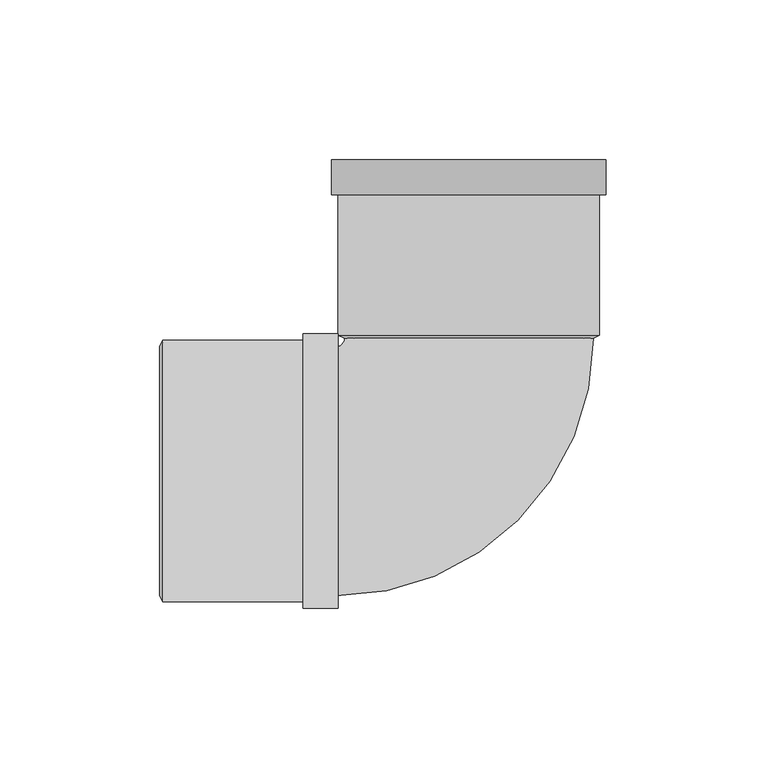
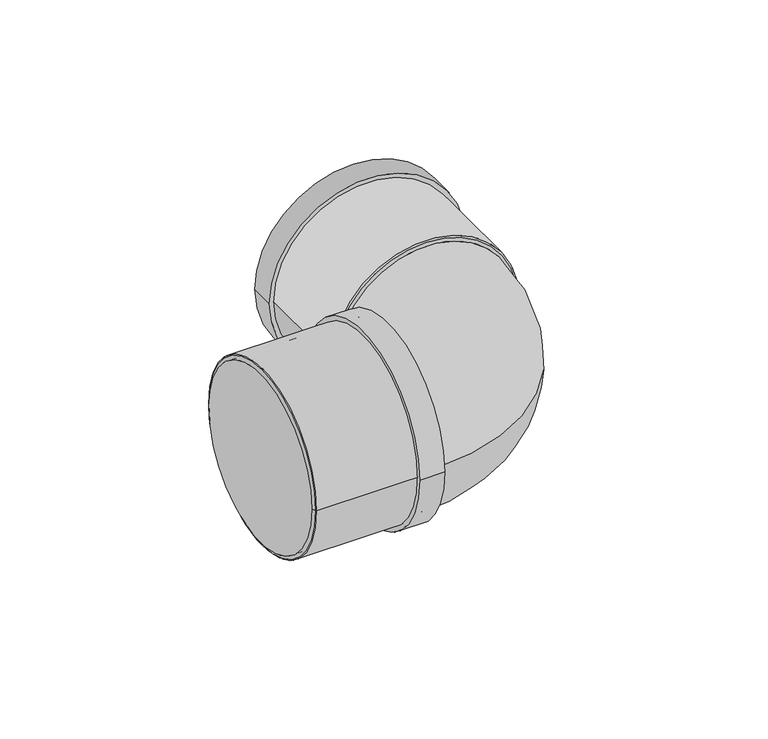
"""IFC4 building model written with IfcOpenShell, lengths in millimetres: pipe fitting geometry, Superdrain SK Bend_Composite 2x45 : Superdrain SK Bend_Composite 2x45."""

from ifc_helpers import new_model, si_unit, point, frame, origin, origin_2d, place, context, project, spatial, polyline, circle_curve, ellipse_curve, trimmed, segment, composite_curve, outline, extrude, source, transform, mapped, element, save
from ifc_brep_helpers import plane_surface, revolved_surface, advanced_brep


def pipe_fitting_76c013b8(model_context):
    return source(origin(), model_context, "Body", "SolidModel", [
        extrude(outline(composite_curve([segment(trimmed(circle_curve(origin_2d(), 40.95), [point((40.95, 0.0))], [point((-40.95, 0.0))], False, "CARTESIAN"), True, "CONTINUOUS"), segment(trimmed(circle_curve(origin_2d(), 40.95), [point((-40.95, 0.0))], [point((40.95, 0.0))], False, "CARTESIAN"), True, "CONTINUOUS")], self_intersect=False), holes=[composite_curve([segment(trimmed(circle_curve(origin_2d(), 39.0), [point((39.0, 0.0))], [point((-39.0, 0.0))], True, "CARTESIAN"), True, "CONTINUOUS"), segment(trimmed(circle_curve(origin_2d(), 39.0), [point((-39.0, 0.0))], [point((39.0, 0.0))], True, "CARTESIAN"), True, "CONTINUOUS")], self_intersect=False)]), frame((-96.0, 0.0, 0.0), z_axis=(1.0, 0.0, 0.0), x_axis=(0.0, 1.0, 0.0)), (0.0, 0.0, 1.0), 55.0),
        extrude(outline(composite_curve([segment(trimmed(circle_curve(origin_2d(), 42.9975), [point((42.9975, 0.0))], [point((-42.9975, 0.0))], False, "CARTESIAN"), True, "CONTINUOUS"), segment(trimmed(circle_curve(origin_2d(), 42.9975), [point((-42.9975, 0.0))], [point((42.9975, 0.0))], False, "CARTESIAN"), True, "CONTINUOUS")], self_intersect=False), holes=[composite_curve([segment(trimmed(circle_curve(origin_2d(), 39.0), [point((39.0, 0.0))], [point((-39.0, 0.0))], True, "CARTESIAN"), True, "CONTINUOUS"), segment(trimmed(circle_curve(origin_2d(), 39.0), [point((-39.0, 0.0))], [point((39.0, 0.0))], True, "CARTESIAN"), True, "CONTINUOUS")], self_intersect=False)]), frame((-52.0, 0.0, 0.0), z_axis=(1.0, 0.0, 0.0), x_axis=(0.0, 1.0, 0.0)), (0.0, 0.0, 1.0), 11.0),
        advanced_brep(
        [(-97.0, 39.0, 0.0), (-97.0, -39.0, 0.0), (-96.0, 40.95, 0.0), (-96.0, -40.95, 0.0)],
        [
            (0, 1, circle_curve(frame((-97.0, 0.0, 0.0), z_axis=(-1.0, 0.0, 0.0), x_axis=(0.0, 1.0, 0.0)), 39.0)),
            (1, 0, circle_curve(frame((-97.0, 0.0, 0.0), z_axis=(-1.0, 0.0, 0.0), x_axis=(0.0, -1.0, 0.0)), 39.0)),
            (2, 3, circle_curve(frame((-96.0, 0.0, 0.0), z_axis=(1.0, 0.0, 0.0), x_axis=(0.0, -1.0, 0.0)), 40.95)),
            (3, 2, circle_curve(frame((-96.0, 0.0, 0.0), z_axis=(1.0, 0.0, 0.0), x_axis=(0.0, 1.0, 0.0)), 40.95)),
            (3, 1),
            (0, 2),
        ],
        [
            plane_surface(frame((-97.0, 0.0, 0.0), z_axis=(-1.0, 0.0, 0.0), x_axis=(0.0, 0.0, -1.0))),
            plane_surface(frame((-96.0, 0.0, 0.0), z_axis=(1.0, 0.0, 0.0), x_axis=(0.0, 0.0, -1.0))),
            revolved_surface(polyline([(-97.0, 39.0, 0.0), (-96.0, 40.95, 0.0)]), (-117.0, 0.0, 0.0), (1.0, 0.0, 0.0)),
            revolved_surface(polyline([(-97.0, -39.0, 0.0), (-96.0, -40.95, 0.0)]), (-117.0, 0.0, 0.0), (1.0, 0.0, 0.0)),
        ],
        [
            (0, [[1, 2]]),
            (1, [[3, 4]]),
            (2, [[-4, 5, -1, 6]]),
            (3, [[-3, -6, -2, -5]]),
        ],
    ),
        advanced_brep(
        [(39.0, 41.6, 0.0), (-39.0, 41.6, 0.0), (-41.6, -39.0, 0.0), (-41.6, 39.0, 0.0)],
        [
            (0, 1, circle_curve(frame((0.0, 41.6, 0.0), z_axis=(0.0, 1.0, 0.0), x_axis=(-1.0, 0.0, 0.0)), 39.0)),
            (1, 0, circle_curve(frame((0.0, 41.6, 0.0), z_axis=(0.0, 1.0, 0.0), x_axis=(-1.0, 0.0, 0.0)), 39.0)),
            (2, 3, circle_curve(frame((-41.6, 0.0, 0.0), z_axis=(-1.0, 0.0, 0.0), x_axis=(0.0, 1.0, 0.0)), 39.0)),
            (3, 2, circle_curve(frame((-41.6, 0.0, 0.0), z_axis=(-1.0, 0.0, 0.0), x_axis=(0.0, 1.0, 0.0)), 39.0)),
            (3, 1, circle_curve(frame((-41.6, 41.6, 0.0), z_axis=(0.0, 0.0, 1.0), x_axis=(1.0, 0.0, 0.0)), 2.6)),
            (0, 2, circle_curve(frame((-41.6, 41.6, 0.0), z_axis=(0.0, 0.0, -1.0), x_axis=(1.0, 0.0, 0.0)), 80.6)),
        ],
        [
            plane_surface(frame((0.0, 41.6, 0.0), z_axis=(0.0, 1.0, 0.0), x_axis=(0.0, 0.0, -1.0))),
            plane_surface(frame((-41.6, 0.0, 0.0), z_axis=(-1.0, 0.0, 0.0), x_axis=(0.0, 0.0, -1.0))),
            revolved_surface(trimmed(ellipse_curve(frame((0.0, 41.6, 0.0), z_axis=(0.0, -1.0, 0.0), x_axis=(-1.0, 0.0, 0.0)), 39.0, 39.0), [point((-39.0, 41.6, 0.0))], [point((39.0, 41.6, 0.0))], True, "CARTESIAN"), (-41.6, 41.6, 0.0), (0.0, 0.0, 1.0)),
            revolved_surface(trimmed(ellipse_curve(frame((0.0, 41.6, 0.0), z_axis=(0.0, -1.0, 0.0), x_axis=(-1.0, 0.0, 0.0)), 39.0, 39.0), [point((39.0, 41.6, 0.0))], [point((-39.0, 41.6, 0.0))], True, "CARTESIAN"), (-41.6, 41.6, 0.0), (0.0, 0.0, 1.0)),
        ],
        [
            (0, [[1, 2]]),
            (1, [[3, 4]]),
            (2, [[-4, 5, -1, 6]]),
            (3, [[-3, -6, -2, -5]]),
        ],
    ),
        extrude(outline(composite_curve([segment(trimmed(circle_curve(origin_2d(), 40.95), [point((0.0, 40.95))], [point((0.0, -40.95))], False, "CARTESIAN"), True, "CONTINUOUS"), segment(trimmed(circle_curve(origin_2d(), 40.95), [point((0.0, -40.95))], [point((0.0, 40.95))], False, "CARTESIAN"), True, "CONTINUOUS")], self_intersect=False), holes=[composite_curve([segment(trimmed(circle_curve(origin_2d(), 39.0), [point((0.0, 39.0))], [point((0.0, -39.0))], True, "CARTESIAN"), True, "CONTINUOUS"), segment(trimmed(circle_curve(origin_2d(), 39.0), [point((0.0, -39.0))], [point((0.0, 39.0))], True, "CARTESIAN"), True, "CONTINUOUS")], self_intersect=False)]), frame((0.0, 42.6, 0.0), z_axis=(0.0, 1.0, 0.0), x_axis=(0.0, 0.0, 1.0)), (0.0, 0.0, 1.0), 55.0),
        extrude(outline(composite_curve([segment(trimmed(circle_curve(origin_2d(), 42.9975), [point((0.0, -42.9975))], [point((0.0, 42.9975))], False, "CARTESIAN"), True, "CONTINUOUS"), segment(trimmed(circle_curve(origin_2d(), 42.9975), [point((0.0, 42.9975))], [point((0.0, -42.9975))], False, "CARTESIAN"), True, "CONTINUOUS")], self_intersect=False), holes=[composite_curve([segment(trimmed(circle_curve(origin_2d(), 39.0), [point((0.0, -39.0))], [point((0.0, 39.0))], True, "CARTESIAN"), True, "CONTINUOUS"), segment(trimmed(circle_curve(origin_2d(), 39.0), [point((0.0, 39.0))], [point((0.0, -39.0))], True, "CARTESIAN"), True, "CONTINUOUS")], self_intersect=False)]), frame((0.0, 86.6, 0.0), z_axis=(0.0, 1.0, 0.0), x_axis=(0.0, 0.0, 1.0)), (0.0, 0.0, 1.0), 11.0),
        advanced_brep(
        [(40.95, 42.6, 0.0), (-40.95, 42.6, 0.0), (39.0, 41.6, 0.0), (-39.0, 41.6, 0.0)],
        [
            (0, 1, circle_curve(frame((0.0, 42.6, 0.0), z_axis=(0.0, 1.0, 0.0), x_axis=(1.0, 0.0, 0.0)), 40.95)),
            (1, 0, circle_curve(frame((0.0, 42.6, 0.0), z_axis=(0.0, 1.0, 0.0), x_axis=(-1.0, 0.0, 0.0)), 40.95)),
            (2, 3, circle_curve(frame((0.0, 41.6, 0.0), z_axis=(0.0, -1.0, 0.0), x_axis=(-1.0, 0.0, 0.0)), 39.0)),
            (3, 2, circle_curve(frame((0.0, 41.6, 0.0), z_axis=(0.0, -1.0, 0.0), x_axis=(1.0, 0.0, 0.0)), 39.0)),
            (3, 1),
            (0, 2),
        ],
        [
            plane_surface(frame((0.0, 42.6, 0.0), z_axis=(0.0, 1.0, 0.0), x_axis=(0.0, 0.0, -1.0))),
            plane_surface(frame((0.0, 41.6, 0.0), z_axis=(0.0, -1.0, 0.0), x_axis=(0.0, 0.0, -1.0))),
            revolved_surface(polyline([(-39.0, 41.6, 0.0), (-40.95, 42.6, 0.0)]), (0.0, 21.6, 0.0), (0.0, 1.0, 0.0)),
            revolved_surface(polyline([(39.0, 41.6, 0.0), (40.95, 42.6, 0.0)]), (0.0, 21.6, 0.0), (0.0, 1.0, 0.0)),
        ],
        [
            (0, [[1, 2]]),
            (1, [[3, 4]]),
            (2, [[-4, 5, -1, 6]]),
            (3, [[-3, -6, -2, -5]]),
        ],
    ),
        extrude(outline(composite_curve([segment(trimmed(circle_curve(origin_2d(), 39.0), [point((-39.0, 0.0))], [point((39.0, 0.0))], False, "CARTESIAN"), True, "CONTINUOUS"), segment(trimmed(circle_curve(origin_2d(), 39.0), [point((39.0, 0.0))], [point((-39.0, 0.0))], False, "CARTESIAN"), True, "CONTINUOUS")], self_intersect=False)), frame((-96.0, 0.0, 0.0), z_axis=(1.0, 0.0, 0.0), x_axis=(0.0, 1.0, 0.0)), (0.0, 0.0, 1.0), 54.4),
    ])


if __name__ == "__main__":
    model = new_model("IFC4")
    model_context = context("Model", 3, world=origin())
    ifc_project = project(units=[si_unit("LENGTHUNIT", "METRE", prefix="MILLI")], contexts=[model_context])
    site = spatial("IfcSite", under=ifc_project)
    building = spatial("IfcBuilding", under=site)
    placement = place(None, origin())
    pipe_fitting_shape = pipe_fitting_76c013b8(model_context)
    element("IfcPipeFitting", 1, ObjectType="Superdrain SK Bend_Composite 2x45 : Superdrain SK Bend_Composite 2x45", at=placement, inside=building, context=model_context, shape_type="MappedRepresentation", body=[
        mapped(pipe_fitting_shape, transform((0.0, 0.0, 0.0), x_axis=(1.0, 0.0, 0.0), y_axis=(0.0, 1.0, 0.0), z_axis=(0.0, 0.0, 1.0))),
    ])
    save(model, "model.ifc")
